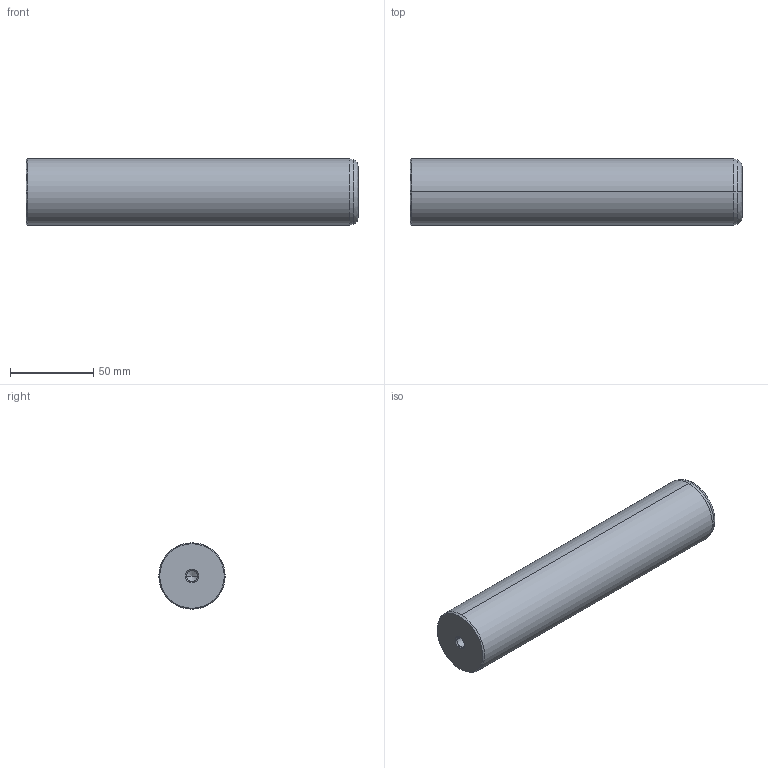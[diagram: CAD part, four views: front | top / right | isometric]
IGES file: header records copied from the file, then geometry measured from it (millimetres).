
Start section: START RECORD GO HERE.
Global section: file name: 720-40x200.igs; native system: DASSAULT SYSTEMES CATIA V5 R20 - www.3ds.com; preprocessor: CATIA Version 5 Release 20 ; author: Utente; organization: NB04-ASUS; date: 20201230.230009; units: millimetre
Bounding box: 200 x 40 x 40 mm (x, y, z)
Surface area: 28316.9 mm2 (no closed solid volume)
Topology: 0 solids, 0 shells, 22 faces, 108 edges, 104 vertices
Faces by surface type: revolution 20, plane 2
